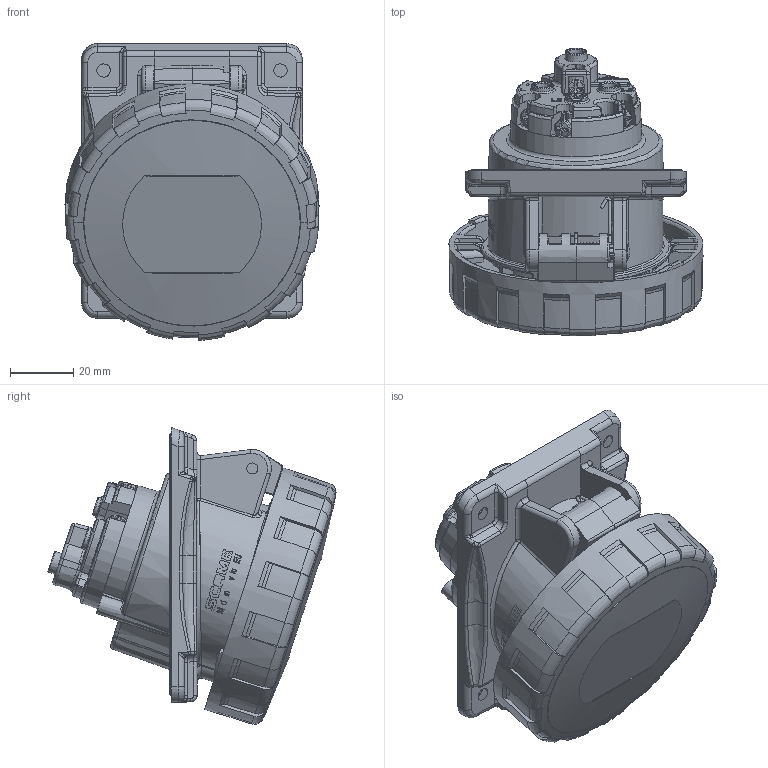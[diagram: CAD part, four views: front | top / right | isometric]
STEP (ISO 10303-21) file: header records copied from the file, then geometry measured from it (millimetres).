
FILE_DESCRIPTION(/* description */ (''),/* implementation_level */ '2;1');
FILE_NAME(/* name */ '4001824.stp',/* time_stamp */ '2017-05-08T21:08:03+02:00',/* author */ (''),/* organization */ (''),/* preprocessor_version */ 'ST-DEVELOPER v16',/* originating_system */ 'SIEMENS PLM Software NX 11.0',/* authorisation */ '');
FILE_SCHEMA (('AUTOMOTIVE_DESIGN { 1 0 10303 214 3 1 1 1 }'));
Length unit declared in the file: millimetre
Products named in the file (1): 4001824_LINKEDEXT_jt
Bounding box: 80.46 x 91.23 x 94.01 mm (x, y, z)
Surface area: 80764.8 mm2 (no closed solid volume)
Topology: 0 solids, 128 shells, 1212 faces, 4628 edges, 3390 vertices
Faces by surface type: cylinder 345, bspline 323, plane 291, cone 107, torus 96, sphere 34, extrusion 16
Full cylindrical faces by diameter (mm): 0.998 x4, 1 x1, 2.4 x4, 3.5 x4, 3.6 x4, 4 x5, 4.643 x1, 5 x1, 5.8 x4, 7 x1, 9 x1
Entity records: 95336 total; most frequent: CARTESIAN_POINT 52696, ORIENTED_EDGE 6552, DIRECTION 6202, EDGE_CURVE 4439, VERTEX_POINT 3339, AXIS2_PLACEMENT_3D 2350, VECTOR 1502, B_SPLINE_CURVE_WITH_KNOTS 1491
